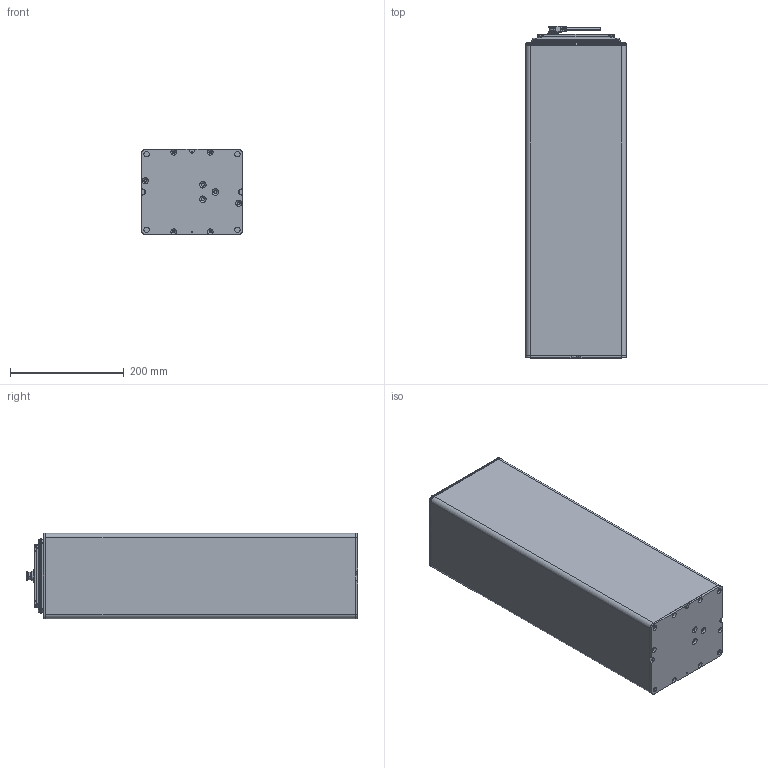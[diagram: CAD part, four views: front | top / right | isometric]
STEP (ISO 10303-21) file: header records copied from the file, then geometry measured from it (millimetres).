
FILE_DESCRIPTION (( 'STEP AP214' ), '1' );
FILE_NAME ('0-dlc3-570-show_20230726.STEP', '2023-07-26T02:39:01', ( '' ), ( '' ), 'SwSTEP 2.0', 'SolidWorks 2023', '' );
FILE_SCHEMA (( 'AUTOMOTIVE_DESIGN' ));
Length unit declared in the file: millimetre
Products named in the file (9): MSBR-3-1; MSBR-6-1; MSBR-1-1; MSBR-2-1; 0-dlc3-570-show_20230726; MSBR-4-1; _0-DLC3-570-SHOW_ASM; MSBR-7-1; MSBR-5-1
Assembly tree (8 placements, depth 2):
  0-dlc3-570-show_20230726
    MSBR-7-1
    MSBR-6-1
    MSBR-5-1
    MSBR-4-1
    MSBR-3-1
    MSBR-2-1
    MSBR-1-1
    _0-DLC3-570-SHOW_ASM
Bounding box: 178.2 x 584.9 x 151.5 mm (x, y, z)
Surface area: 2051761.1 mm2
Topology: 10 solids, 10 shells, 2461 faces, 6604 edges, 4153 vertices
Faces by surface type: cylinder 1059, plane 1055, bspline 156, torus 109, cone 72, sphere 10
Entity records: 85767 total; most frequent: CARTESIAN_POINT 26507, ORIENTED_EDGE 13140, DIRECTION 11323, EDGE_CURVE 6570, VERTEX_POINT 4153, LINE 3811, VECTOR 3811, AXIS2_PLACEMENT_3D 3756
